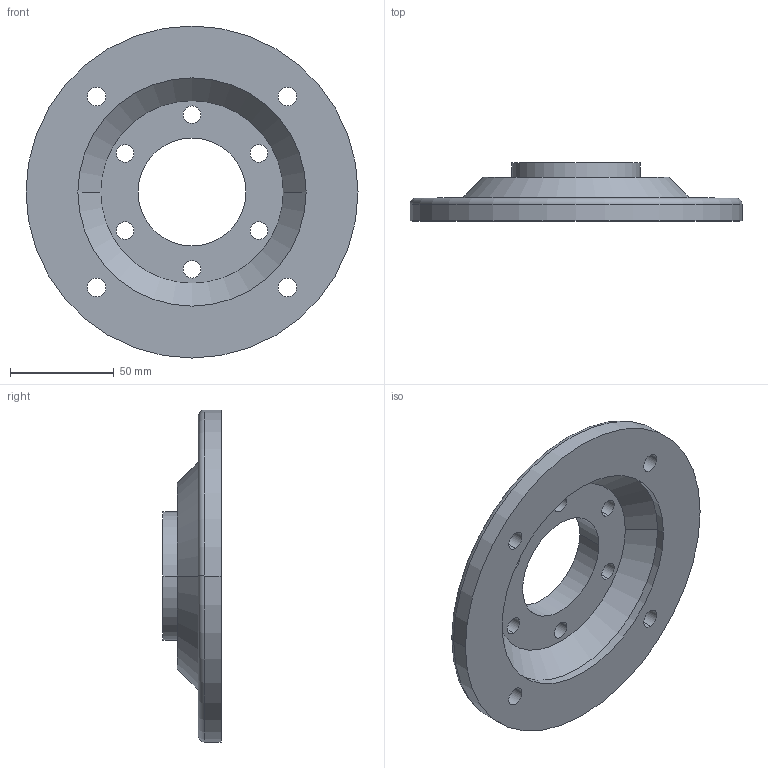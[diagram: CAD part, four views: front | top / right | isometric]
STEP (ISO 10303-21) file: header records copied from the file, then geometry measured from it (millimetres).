
FILE_DESCRIPTION (( 'STEP AP203' ), '1' );
FILE_NAME ('HG3035 B14 100 112.STEP', '2019-07-18T08:08:59', ( '' ), ( '' ), 'SwSTEP 2.0', 'SolidWorks 2018', '' );
FILE_SCHEMA (( 'CONFIG_CONTROL_DESIGN' ));
Length unit declared in the file: millimetre
Products named in the file (1): HG3035 B14 100 112
Bounding box: 160 x 28 x 160 mm (x, y, z)
Volume: 164653.9 mm3; surface area: 49446.3 mm2
Topology: 1 solids, 1 shells, 39 faces, 98 edges, 64 vertices
Faces by surface type: cylinder 28, plane 5, cone 4, torus 2
Entity records: 1327 total; most frequent: DIRECTION 244, CARTESIAN_POINT 202, ORIENTED_EDGE 196, AXIS2_PLACEMENT_3D 106, EDGE_CURVE 98, CIRCLE 66, EDGE_LOOP 64, VERTEX_POINT 64
